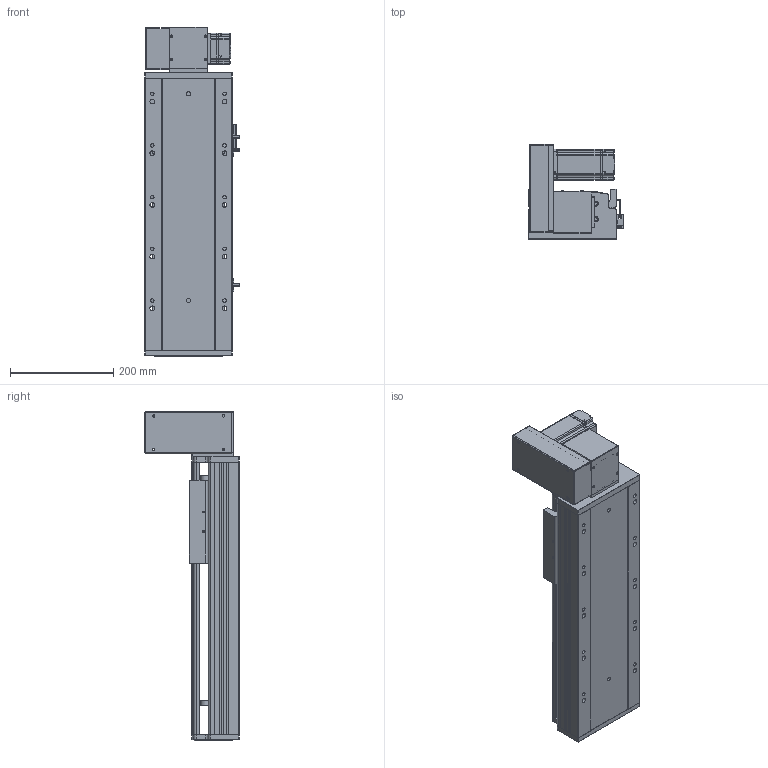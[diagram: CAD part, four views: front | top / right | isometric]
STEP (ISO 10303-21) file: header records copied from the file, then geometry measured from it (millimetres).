
FILE_DESCRIPTION (( 'STEP AP203' ), '1' );
FILE_NAME ('RY170-T-300-UL-P400W.SLDASM_250.step', '2021-03-02T02:11:57', ( '盈信电脑' ), ( '东莞市道滘镇水果街19号' ), 'SwSTEP 2.0', 'SolidWorks 2012', '' );
FILE_SCHEMA (( 'CONFIG_CONTROL_DESIGN' ));
Products named in the file (18): 15; RY170-T-300-UL-P400W.SLDASM_250; RY170肮祭謫萇儂欶; RY170-T蹟翐M4; RY120-T主同步轮轴承压盖; RY170同步轮电机安装板(400W); RY170-T肮祭湍揤踡輸2; 滅袉蝶18-10; RY170-T肮祭湍揤踡輸1; RY170-T肮祭謫裔啣; RY170外置感应片(200共用）; RY170翋肮祭謫釱; RY170肮祭謫ヶ裔啣; 覜茼ん672; RY170肮祭湍臏賑輸; RY170-T-300肮祭謫倰第裔啣-DL_250; RY170綴裔啣; RY170-T-300肮祭謫倰第菁釱-DL_250
Assembly tree (20 placements, depth 2):
  RY170-T-300-UL-P400W.SLDASM_250
    RY170-T-300肮祭謫倰第菁釱-DL_250
    RY170肮祭湍臏賑輸
    RY170-T-300肮祭謫倰第裔啣-DL_250
    RY170綴裔啣
    覜茼ん672  x3
    RY170外置感应片(200共用）
    RY170肮祭謫ヶ裔啣
    RY170翋肮祭謫釱
    RY170-T肮祭湍揤踡輸1
    RY170-T肮祭湍揤踡輸2
    RY170-T肮祭謫裔啣
    滅袉蝶18-10  x2
    RY120-T主同步轮轴承压盖
    RY170肮祭謫萇儂欶
    RY170同步轮电机安装板(400W)
    RY170-T蹟翐M4
    15
Bounding box: 183.7 x 184 x 638 mm (x, y, z)
Volume: 3748333.3 mm3; surface area: 1216090.1 mm2
Topology: 20 solids, 20 shells, 2405 faces, 6650 edges, 4285 vertices
Faces by surface type: plane 1141, cylinder 1046, cone 188, bspline 30
Entity records: 75680 total; most frequent: CARTESIAN_POINT 16304, ORIENTED_EDGE 12040, DIRECTION 11930, EDGE_CURVE 6020, AXIS2_PLACEMENT_3D 4153, VERTEX_POINT 3953, VECTOR 3624, LINE 3624
